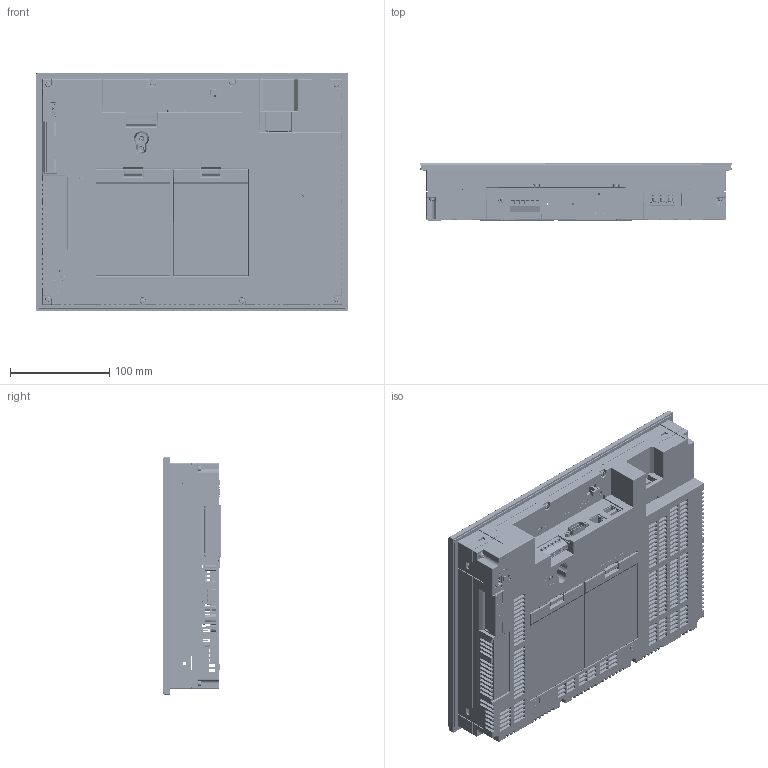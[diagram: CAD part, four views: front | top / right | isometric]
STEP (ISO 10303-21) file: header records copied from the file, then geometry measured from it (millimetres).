
FILE_DESCRIPTION((''),'2;1');
FILE_NAME('IXP80_160817','2016-08-17T',('jwkwack'),(''),'PRO/ENGINEER BY PARAMETRIC TECHNOLOGY CORPORATION, 2013240','PRO/ENGINEER BY PARAMETRIC TECHNOLOGY CORPORATION, 2013240','');
FILE_SCHEMA(('CONFIG_CONTROL_DESIGN'));
Products named in the file (1): IXP80_160817
Bounding box: 313 x 58.8 x 239 mm (x, y, z)
Surface area: 1421043.1 mm2 (no closed solid volume)
Topology: 0 solids, 133 shells, 26579 faces, 77241 edges, 50569 vertices
Faces by surface type: plane 22662, cylinder 3123, cone 374, torus 180, sphere 142, bspline 66, extrusion 32
Entity records: 869575 total; most frequent: CARTESIAN_POINT 166040, ORIENTED_EDGE 150440, DIRECTION 135892, EDGE_CURVE 77109, VECTOR 66860, LINE 66828, VERTEX_POINT 50575, AXIS2_PLACEMENT_3D 34516
